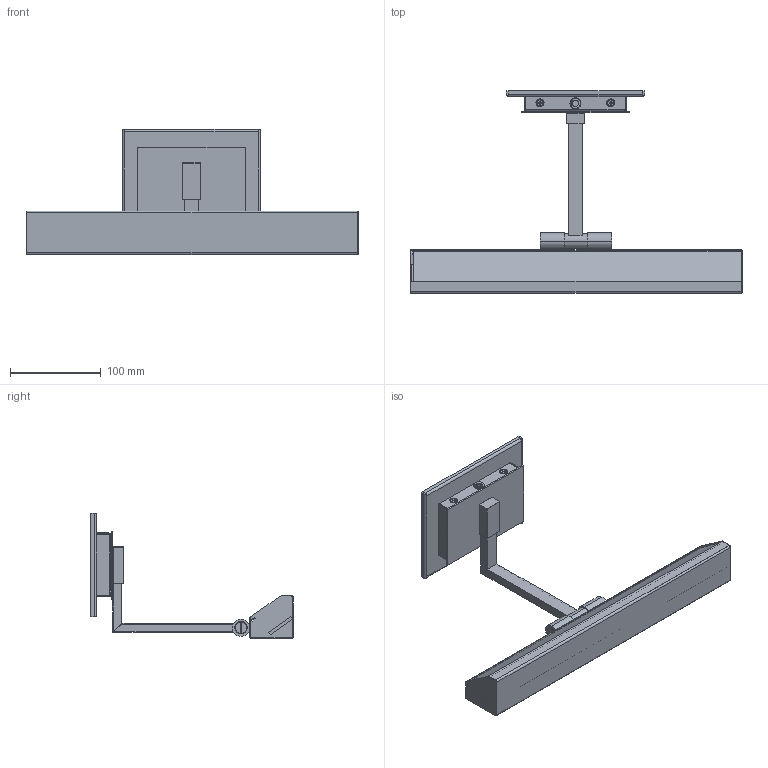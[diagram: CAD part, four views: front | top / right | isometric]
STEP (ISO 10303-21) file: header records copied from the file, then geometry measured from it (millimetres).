
FILE_DESCRIPTION((''),'2;1');
FILE_NAME('PIC814-E0_ASM','2024-12-19T',('Elliot.Tan'),(''),'PRO/ENGINEER BY PARAMETRIC TECHNOLOGY CORPORATION, 2009360','PRO/ENGINEER BY PARAMETRIC TECHNOLOGY CORPORATION, 2009360','');
FILE_SCHEMA(('AUTOMOTIVE_DESIGN_CC2 { 1 2 10303 214 -1 1 5 2 }'));
Length unit declared in the file: millimetre
Products named in the file (26): PIC814-01; PIC814-02; PIC814-23; PIC814-22; PIC814-E1_ASM; PIC814-05; PIC814-11; PIC814-10; PIC814-09; PIC814-06; PIC814-E2_ASM; PIC814-08; PIC814-17; PIC814-18; PIC814-16; PIC814-19; 1EPD511; PIC814-26; PIC814-27; PIC814-21; WS77618-08; UF0001-06; S2CTFEB-12; 7EAF121002BK; 1011-13; PIC814-E0_ASM
Assembly tree (39 placements, depth 3):
  PIC814-E0_ASM
    PIC814-E1_ASM
      PIC814-01
      PIC814-02  x2
      PIC814-23
      PIC814-22
    PIC814-05  x2
    PIC814-E2_ASM
      PIC814-11
      PIC814-10
      PIC814-09
      PIC814-06
    PIC814-08  x2
    PIC814-17
    PIC814-18
    PIC814-16
    PIC814-19
    1EPD511
    PIC814-26  x2
    PIC814-27
    PIC814-21
    WS77618-08
    UF0001-06  x2
    S2CTFEB-12  x9
    7EAF121002BK
    1011-13  x2
Bounding box: 366 x 223.15 x 138 mm (x, y, z)
Volume: 263528.6 mm3; surface area: 384424.5 mm2
Topology: 37 solids, 46 shells, 1707 faces, 4180 edges, 2646 vertices
Faces by surface type: plane 1088, cylinder 399, cone 88, torus 56, bspline 56, sphere 20
Entity records: 44265 total; most frequent: CARTESIAN_POINT 10900, DIRECTION 6641, ORIENTED_EDGE 6556, EDGE_CURVE 3298, VECTOR 2435, LINE 2435, AXIS2_PLACEMENT_3D 2103, VERTEX_POINT 2086
